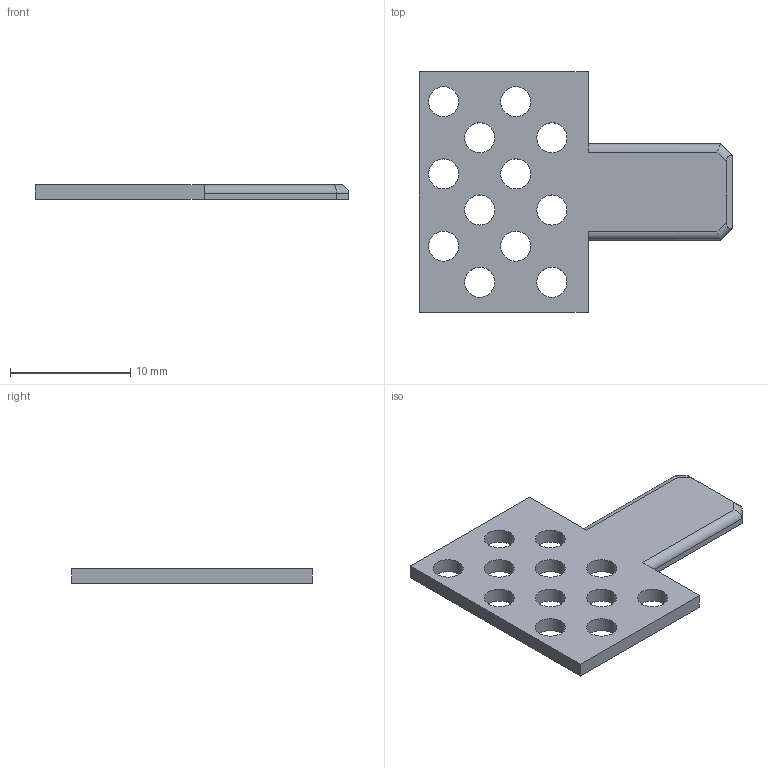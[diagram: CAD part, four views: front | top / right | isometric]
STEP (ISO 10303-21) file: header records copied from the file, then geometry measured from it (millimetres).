
FILE_DESCRIPTION(('FreeCAD Model'),'2;1');
FILE_NAME('Open CASCADE Shape Model','2026-05-04T20:17:15',(''),(''), 'Open CASCADE STEP processor 7.8','FreeCAD','Unknown');
FILE_SCHEMA(('AUTOMOTIVE_DESIGN { 1 0 10303 214 1 1 1 1 }'));
Length unit declared in the file: millimetre
Products named in the file (1): front
Bounding box: 26 x 20 x 1.2 mm (x, y, z)
Volume: 376 mm3; surface area: 845.1 mm2
Topology: 1 solids, 1 shells, 29 faces, 81 edges, 54 vertices
Faces by surface type: cylinder 16, plane 13
Full cylindrical faces by diameter (mm): 2.5 x12
Entity records: 1017 total; most frequent: DIRECTION 173, CARTESIAN_POINT 165, ORIENTED_EDGE 162, EDGE_CURVE 81, AXIS2_PLACEMENT_3D 62, VERTEX_POINT 54, FACE_BOUND 53, EDGE_LOOP 53
